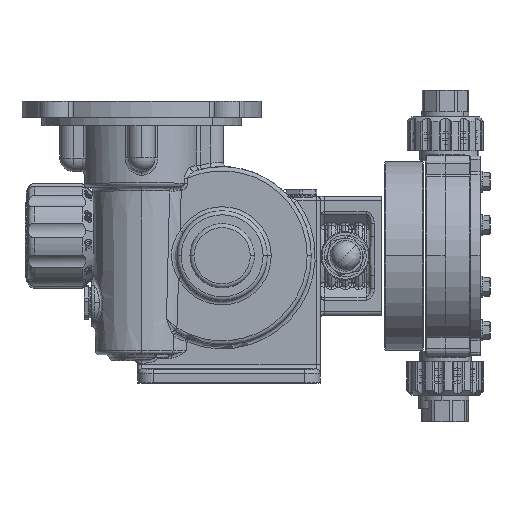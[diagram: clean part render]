
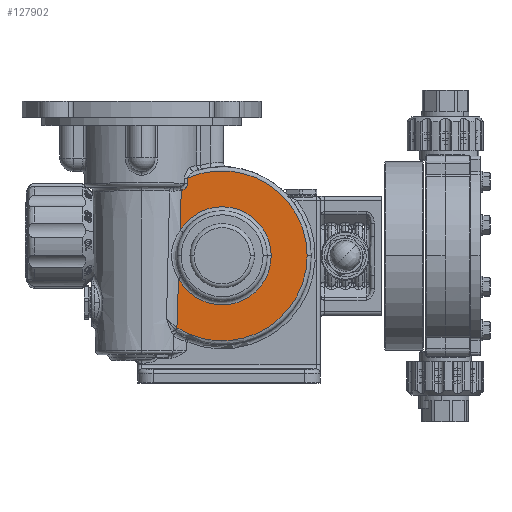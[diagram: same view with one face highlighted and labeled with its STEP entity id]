
A CAD part, top view. The second image highlights one B-rep face of the part: STEP entity #127902.
In plain terms, the highlighted planar face has unit normal (0, 0, 1).
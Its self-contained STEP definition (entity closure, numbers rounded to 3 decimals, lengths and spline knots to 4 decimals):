
#166 = CARTESIAN_POINT ( 'NONE',  ( 3.9918, 1.6007, 1.0209 ) ) ;
#484 = CARTESIAN_POINT ( 'NONE',  ( 4.1497, 1.7791, 1.0209 ) ) ;
#1780 = AXIS2_PLACEMENT_3D ( 'NONE', #118198, #38888, #95944 ) ;
#3070 = ORIENTED_EDGE ( 'NONE', *, *, #72733, .T. ) ;
#5418 = CIRCLE ( 'NONE', #83482, 1.2008 ) ;
#6553 = CARTESIAN_POINT ( 'NONE',  ( 4.0848, 1.65, 1.0209 ) ) ;
#12391 = CARTESIAN_POINT ( 'NONE',  ( 3.8857, -1.7614, 1.0209 ) ) ;
#19261 = DIRECTION ( 'NONE',  ( 0., -1., 0. ) ) ;
#22311 = EDGE_CURVE ( 'NONE', #74737, #72359, #74552, .T. ) ;
#24377 = CARTESIAN_POINT ( 'NONE',  ( 3.9818, 1.273, 1.0209 ) ) ;
#27338 = CARTESIAN_POINT ( 'NONE',  ( 4.9915, 0., 1.0209 ) ) ;
#31100 = LINE ( 'NONE', #52623, #52897 ) ;
#31843 = PLANE ( 'NONE',  #64550 ) ;
#32155 = EDGE_CURVE ( 'NONE', #33117, #74737, #80234, .T. ) ;
#32399 = DIRECTION ( 'NONE',  ( 0., 0., -1. ) ) ;
#33117 = VERTEX_POINT ( 'NONE', #484 ) ;
#35063 = VERTEX_POINT ( 'NONE', #12391 ) ;
#36263 = AXIS2_PLACEMENT_3D ( 'NONE', #42045, #32399, #87283 ) ;
#37702 = DIRECTION ( 'NONE',  ( 0., 0., -1. ) ) ;
#38570 = CIRCLE ( 'NONE', #36263, 1.2008 ) ;
#38888 = DIRECTION ( 'NONE',  ( 0., 0., 1. ) ) ;
#39792 = CARTESIAN_POINT ( 'NONE',  ( 3.9616, 0.6175, 1.0209 ) ) ;
#42045 = CARTESIAN_POINT ( 'NONE',  ( 4.9915, 0., 1.0209 ) ) ;
#42242 = CARTESIAN_POINT ( 'NONE',  ( 3.912, -0.9549, 1.0209 ) ) ;
#43790 = VERTEX_POINT ( 'NONE', #62742 ) ;
#44251 = ORIENTED_EDGE ( 'NONE', *, *, #125457, .T. ) ;
#44861 = EDGE_CURVE ( 'NONE', #72359, #51359, #5418, .T. ) ;
#49520 = VERTEX_POINT ( 'NONE', #53273 ) ;
#51009 = CARTESIAN_POINT ( 'NONE',  ( 4.0929, 1.6571, 1.0209 ) ) ;
#51359 = VERTEX_POINT ( 'NONE', #144623 ) ;
#51746 = CARTESIAN_POINT ( 'NONE',  ( 4.1485, 1.7576, 1.0209 ) ) ;
#52623 = CARTESIAN_POINT ( 'NONE',  ( 4.1497, 0., 1.0209 ) ) ;
#52897 = VECTOR ( 'NONE', #19261, 39.3701 ) ;
#53273 = CARTESIAN_POINT ( 'NONE',  ( 3.9249, -0.5516, 1.0209 ) ) ;
#59965 = CARTESIAN_POINT ( 'NONE',  ( 3.9616, 0.6175, 1.0209 ) ) ;
#60707 = CARTESIAN_POINT ( 'NONE',  ( 4.0678, 1.637, 1.0209 ) ) ;
#61404 = VERTEX_POINT ( 'NONE', #90483 ) ;
#61430 = CARTESIAN_POINT ( 'NONE',  ( 4.1439, 1.7367, 1.0209 ) ) ;
#62381 = ORIENTED_EDGE ( 'NONE', *, *, #32155, .T. ) ;
#62742 = CARTESIAN_POINT ( 'NONE',  ( 7.0712, 0., 1.0209 ) ) ;
#62898 = CARTESIAN_POINT ( 'NONE',  ( 4.1405, 1.7266, 1.0209 ) ) ;
#64550 = AXIS2_PLACEMENT_3D ( 'NONE', #77048, #145209, #71768 ) ;
#64575 = EDGE_CURVE ( 'NONE', #61404, #33117, #31100, .T. ) ;
#68901 = EDGE_CURVE ( 'NONE', #43790, #61404, #93706, .T. ) ;
#70110 = AXIS2_PLACEMENT_3D ( 'NONE', #111719, #102068, #133949 ) ;
#71768 = DIRECTION ( 'NONE',  ( 1., 0., 0. ) ) ;
#71785 = CARTESIAN_POINT ( 'NONE',  ( 4.1077, 1.6723, 1.0209 ) ) ;
#72359 = VERTEX_POINT ( 'NONE', #39792 ) ;
#72498 = CARTESIAN_POINT ( 'NONE',  ( 3.9918, 1.6007, 1.0209 ) ) ;
#72532 = DIRECTION ( 'NONE',  ( 1., 0., 0. ) ) ;
#72733 = EDGE_CURVE ( 'NONE', #35063, #43790, #89358, .T. ) ;
#73423 = EDGE_LOOP ( 'NONE', ( #3070, #106201, #74190, #62381, #132180, #138383, #121709, #44251 ) ) ;
#74190 = ORIENTED_EDGE ( 'NONE', *, *, #64575, .T. ) ;
#74552 = B_SPLINE_CURVE_WITH_KNOTS ( 'NONE', 3,
 ( #126632, #24377, #114772, #59965 ),
 .UNSPECIFIED., .F., .F.,
 ( 4, 4 ),
 ( 0.002, 0.027 ),
 .UNSPECIFIED. ) ;
#74737 = VERTEX_POINT ( 'NONE', #166 ) ;
#76338 = CARTESIAN_POINT ( 'NONE',  ( 3.899, -1.3582, 1.0209 ) ) ;
#77048 = CARTESIAN_POINT ( 'NONE',  ( 4.9915, 0., 1.0209 ) ) ;
#80234 = B_SPLINE_CURVE_WITH_KNOTS ( 'NONE', 3,
 ( #82906, #139222, #51746, #61430, #62898, #94016, #128835, #108050, #71785, #51009, #6553, #60707, #142142, #82184, #118445, #72498 ),
 .UNSPECIFIED., .F., .F.,
 ( 4, 2, 2, 2, 2, 2, 2, 4 ),
 ( 0., 0.0008, 0.0016, 0.0025, 0.0033, 0.0041, 0.0049, 0.0065 ),
 .UNSPECIFIED. ) ;
#82184 = CARTESIAN_POINT ( 'NONE',  ( 4.0316, 1.6155, 1.0209 ) ) ;
#82906 = CARTESIAN_POINT ( 'NONE',  ( 4.1497, 1.7791, 1.0209 ) ) ;
#83482 = AXIS2_PLACEMENT_3D ( 'NONE', #27338, #37702, #72532 ) ;
#87283 = DIRECTION ( 'NONE',  ( 1., 0., 0. ) ) ;
#87464 = CARTESIAN_POINT ( 'NONE',  ( 3.8857, -1.7614, 1.0209 ) ) ;
#89358 = CIRCLE ( 'NONE', #1780, 2.0797 ) ;
#90483 = CARTESIAN_POINT ( 'NONE',  ( 4.1497, 1.9018, 1.0209 ) ) ;
#93706 = CIRCLE ( 'NONE', #70110, 2.0797 ) ;
#94016 = CARTESIAN_POINT ( 'NONE',  ( 4.132, 1.7074, 1.0209 ) ) ;
#95944 = DIRECTION ( 'NONE',  ( 1., 0., 0. ) ) ;
#102068 = DIRECTION ( 'NONE',  ( 0., 0., 1. ) ) ;
#106201 = ORIENTED_EDGE ( 'NONE', *, *, #68901, .T. ) ;
#108050 = CARTESIAN_POINT ( 'NONE',  ( 4.1145, 1.6804, 1.0209 ) ) ;
#111719 = CARTESIAN_POINT ( 'NONE',  ( 4.9915, 0., 1.0209 ) ) ;
#114772 = CARTESIAN_POINT ( 'NONE',  ( 3.9718, 0.9453, 1.0209 ) ) ;
#118198 = CARTESIAN_POINT ( 'NONE',  ( 4.9915, 0., 1.0209 ) ) ;
#118445 = CARTESIAN_POINT ( 'NONE',  ( 4.0122, 1.6072, 1.0209 ) ) ;
#121709 = ORIENTED_EDGE ( 'NONE', *, *, #128196, .T. ) ;
#125457 = EDGE_CURVE ( 'NONE', #49520, #35063, #142834, .T. ) ;
#126632 = CARTESIAN_POINT ( 'NONE',  ( 3.9918, 1.6007, 1.0209 ) ) ;
#127902 = ADVANCED_FACE ( 'NONE', ( #133359 ), #31843, .T. ) ;
#128196 = EDGE_CURVE ( 'NONE', #51359, #49520, #38570, .T. ) ;
#128835 = CARTESIAN_POINT ( 'NONE',  ( 4.1267, 1.698, 1.0209 ) ) ;
#132180 = ORIENTED_EDGE ( 'NONE', *, *, #22311, .T. ) ;
#133359 = FACE_OUTER_BOUND ( 'NONE', #73423, .T. ) ;
#133949 = DIRECTION ( 'NONE',  ( 1., 0., 0. ) ) ;
#138383 = ORIENTED_EDGE ( 'NONE', *, *, #44861, .T. ) ;
#139222 = CARTESIAN_POINT ( 'NONE',  ( 4.1497, 1.7683, 1.0209 ) ) ;
#142142 = CARTESIAN_POINT ( 'NONE',  ( 4.059, 1.6312, 1.0209 ) ) ;
#142834 = B_SPLINE_CURVE_WITH_KNOTS ( 'NONE', 3,
 ( #144491, #42242, #76338, #87464 ),
 .UNSPECIFIED., .F., .F.,
 ( 4, 4 ),
 ( 0.0567, 0.0875 ),
 .UNSPECIFIED. ) ;
#144491 = CARTESIAN_POINT ( 'NONE',  ( 3.9249, -0.5516, 1.0209 ) ) ;
#144623 = CARTESIAN_POINT ( 'NONE',  ( 6.1923, 0., 1.0209 ) ) ;
#145209 = DIRECTION ( 'NONE',  ( 0., 0., 1. ) ) ;
